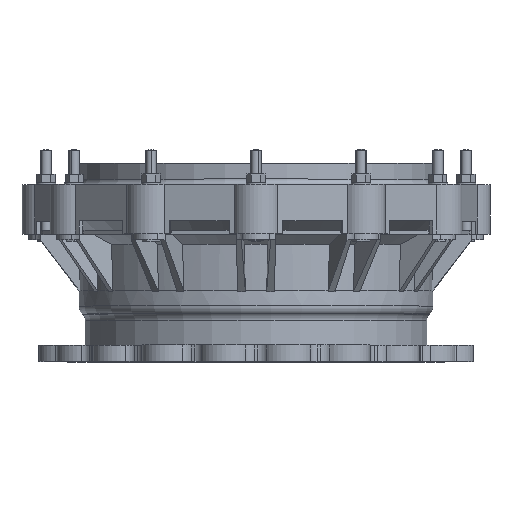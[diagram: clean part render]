
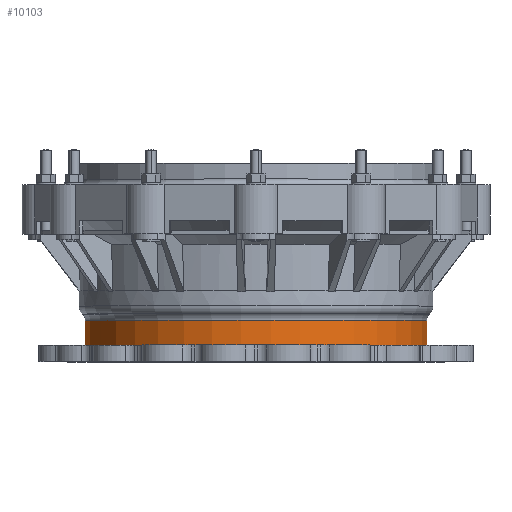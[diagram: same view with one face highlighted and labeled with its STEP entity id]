
A CAD part, top view. The second image highlights one B-rep face of the part: STEP entity #10103.
In plain terms, the highlighted cylindrical face has radius 327.5 mm (diameter 655 mm), a partial arc.
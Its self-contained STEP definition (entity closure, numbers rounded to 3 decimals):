
#2146=DIRECTION('',(0.,1.,0.));
#2147=VECTOR('',#2146,47.104);
#2148=CARTESIAN_POINT('',(316.341,-69.,-84.763));
#2149=LINE('',#2148,#2147);
#2150=CARTESIAN_POINT('',(0.,-69.,0.));
#2151=DIRECTION('',(0.,-1.,0.));
#2152=DIRECTION('',(0.966,0.,-0.259));
#2153=AXIS2_PLACEMENT_3D('',#2150,#2151,#2152);
#2160=DIRECTION('',(0.,-1.,0.));
#2161=VECTOR('',#2160,47.104);
#2162=CARTESIAN_POINT('',(231.577,-21.896,
-231.577));
#2163=LINE('',#2162,#2161);
#2174=CARTESIAN_POINT('',(0.,-21.896,0.));
#2175=DIRECTION('',(0.,-1.,0.));
#2176=DIRECTION('',(0.966,0.,-0.259));
#2177=AXIS2_PLACEMENT_3D('',#2174,#2175,#2176);
#6828=CARTESIAN_POINT('',(316.341,-69.,-84.763));
#6829=CARTESIAN_POINT('',(316.341,-21.896,
-84.763));
#6830=VERTEX_POINT('',#6828);
#6831=VERTEX_POINT('',#6829);
#6840=CARTESIAN_POINT('',(231.577,-69.,-231.577));
#6841=VERTEX_POINT('',#6840);
#6858=CARTESIAN_POINT('',(231.577,-21.896,
-231.577));
#6859=VERTEX_POINT('',#6858);
#10089=CARTESIAN_POINT('',(0.,162.5,0.));
#10090=DIRECTION('',(0.,-1.,0.));
#10091=DIRECTION('',(-1.,0.,0.));
#10092=AXIS2_PLACEMENT_3D('',#10089,#10090,#10091);
#10093=CYLINDRICAL_SURFACE('',#10092,327.5);
#10095=ORIENTED_EDGE('',*,*,#10094,.F.);
#10096=ORIENTED_EDGE('',*,*,#9843,.T.);
#10098=ORIENTED_EDGE('',*,*,#10097,.F.);
#10100=ORIENTED_EDGE('',*,*,#10099,.F.);
#10101=EDGE_LOOP('',(#10095,#10096,#10098,#10100));
#10102=FACE_OUTER_BOUND('',#10101,.F.);
#10103=ADVANCED_FACE('',(#10102),#10093,.T.);
#2154=CIRCLE('',#2153,327.5);
#2178=CIRCLE('',#2177,327.5);
#9843=EDGE_CURVE('',#6830,#6841,#2154,.T.);
#10094=EDGE_CURVE('',#6830,#6831,#2149,.T.);
#10097=EDGE_CURVE('',#6859,#6841,#2163,.T.);
#10099=EDGE_CURVE('',#6831,#6859,#2178,.T.);
